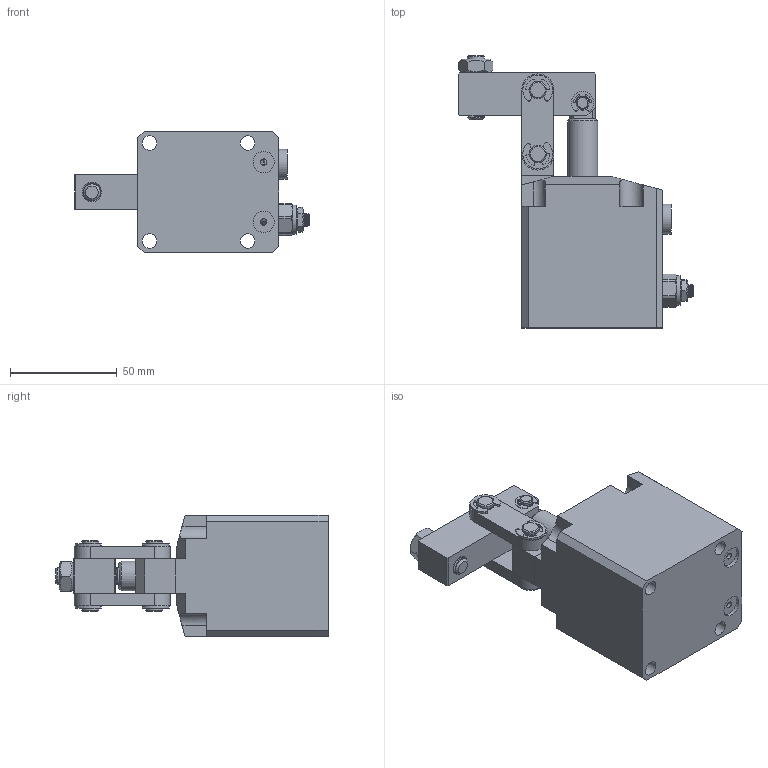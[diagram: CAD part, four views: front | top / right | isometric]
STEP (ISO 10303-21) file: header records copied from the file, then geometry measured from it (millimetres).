
FILE_DESCRIPTION(/* description */ ('STEP AP214'),/* implementation_level */ '2;1');
FILE_NAME(/* name */ 'D:\Vault_2016\Projekty\Clamptek\Hydraulic\CBLU\CBLU-35\STEP\CBLU-35C.stp',/* time_stamp */ '2021-05-06T12:25:22+02:00',/* author */ ('user'),/* organization */ (''),/* preprocessor_version */ 'ST-DEVELOPER v18.1',/* originating_system */ 'Autodesk Inventor 2021',/* authorisation */ '');
FILE_SCHEMA (('AUTOMOTIVE_DESIGN { 1 0 10303 214 3 1 1 }'));
Length unit declared in the file: millimetre
Products named in the file (14): CBLU-35C; ±¾ÌåC_1_2_1_1; »îÈû¸Ë_1_1_1; 35Ñ¹±Û; Ö§³Å; Á¬¸Ë_1; ÏúÖá2; ÏúÖá1; 8MM¿ª¿Úµ²È¦; 6MM¿ª¿Úµ²È¦; ÂÝË¿; M8ÂÝÄ¸; Áã¼þ2_1; CZL10µ÷ËÙ·§_4_1
Assembly tree (19 placements, depth 2):
  CBLU-35C
    ±¾ÌåC_1_2_1_1
    »îÈû¸Ë_1_1_1
    35Ñ¹±Û
    Ö§³Å
    Á¬¸Ë_1  x2
    ÏúÖá2  x2
    ÏúÖá1
    8MM¿ª¿Úµ²È¦  x4
    6MM¿ª¿Úµ²È¦  x2
    ÂÝË¿
    M8ÂÝÄ¸
    Áã¼þ2_1
    CZL10µ÷ËÙ·§_4_1
Bounding box: 109.8 x 127.5 x 57 mm (x, y, z)
Volume: 263052.2 mm3; surface area: 64891.7 mm2
Topology: 21 solids, 21 shells, 568 faces, 1476 edges, 970 vertices
Faces by surface type: cylinder 226, plane 220, cone 59, bspline 50, torus 13
Full cylindrical faces by diameter (mm): 1 x6, 1.6 x1, 2.5 x2, 3 x1, 3.3 x1, 3.8 x1, 4.917 x4, 5 x4, 5.6 x1, 6 x24, 6.1 x1, 6.8 x4, 7 x5, 8 x36, 8.7 x1, 8.8 x1, 9 x1, 10 x3, 11.8 x1, 12.6 x1, 12.7 x1, 13.8 x1, 14 x3, 35 x2
Entity records: 28726 total; most frequent: CARTESIAN_POINT 17050, ORIENTED_EDGE 2422, DIRECTION 2176, EDGE_CURVE 1211, AXIS2_PLACEMENT_3D 818, VERTEX_POINT 795, EDGE_LOOP 540, LINE 540
